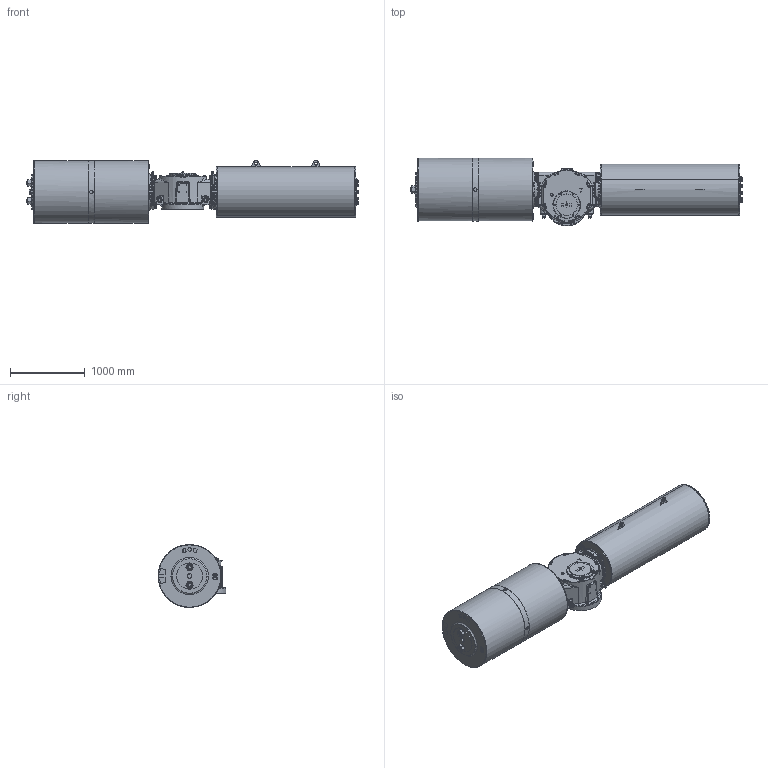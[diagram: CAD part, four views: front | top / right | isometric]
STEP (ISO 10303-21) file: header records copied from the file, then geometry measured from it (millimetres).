
FILE_DESCRIPTION (( 'STEP AP203' ), '1' );
FILE_NAME ('VTS7-800D-SR-FC.STEP', '2023-01-01T10:06:57', ( '' ), ( '' ), 'SwSTEP 2.0', 'SolidWorks 2020', '' );
FILE_SCHEMA (( 'CONFIG_CONTROL_DESIGN' ));
Products named in the file (1): VTS7-800D-SR-FC
Bounding box: 4435.22 x 902.5 x 839.5 mm (x, y, z)
Volume: 1726066627.1 mm3; surface area: 13620178.6 mm2
Topology: 54 solids, 54 shells, 3446 faces, 8353 edges, 5100 vertices
Faces by surface type: cylinder 1166, plane 1089, cone 810, bspline 364, torus 17
Entity records: 130394 total; most frequent: CARTESIAN_POINT 52040, DIRECTION 16481, ORIENTED_EDGE 16426, EDGE_CURVE 8213, AXIS2_PLACEMENT_3D 6653, VERTEX_POINT 5100, EDGE_LOOP 3795, CIRCLE 3570
